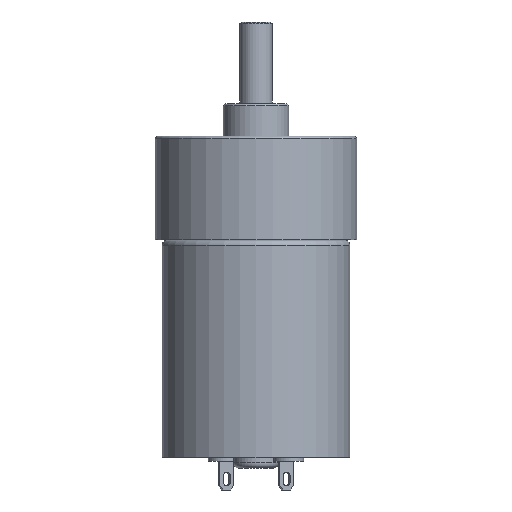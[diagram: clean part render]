
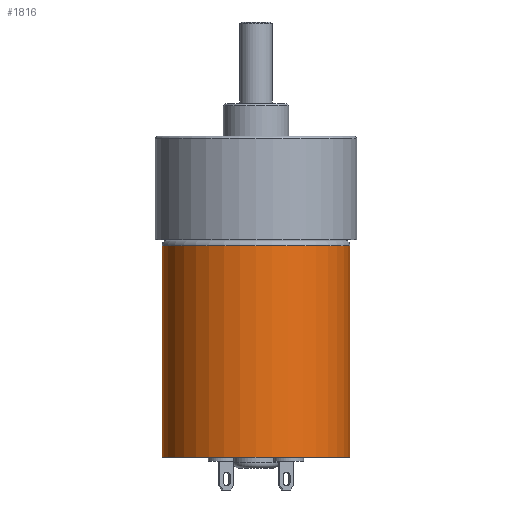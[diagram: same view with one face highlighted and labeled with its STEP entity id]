
A CAD part, front view. The second image highlights one B-rep face of the part: STEP entity #1816.
In plain terms, the highlighted cylindrical face has radius 17.25 mm (diameter 34.5 mm), a partial arc.
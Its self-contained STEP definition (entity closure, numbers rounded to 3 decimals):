
#1568 = EDGE_CURVE ( 'NONE', #1834, #3184, #3850, .T. ) ;
#1569 = ORIENTED_EDGE ( 'NONE', *, *, #1568, .T. ) ;
#1799 = EDGE_LOOP ( 'NONE', ( #1822, #3686, #1814, #1569 ) ) ;
#1811 = EDGE_CURVE ( 'NONE', #3206, #3205, #4703, .T. ) ;
#1814 = ORIENTED_EDGE ( 'NONE', *, *, #3194, .T. ) ;
#1816 = ADVANCED_FACE ( 'NONE', ( #4679 ), #4729, .T. ) ;
#1822 = ORIENTED_EDGE ( 'NONE', *, *, #3180, .F. ) ;
#1834 = VERTEX_POINT ( 'NONE', #4795 ) ;
#3180 = EDGE_CURVE ( 'NONE', #3205, #3184, #7584, .T. ) ;
#3184 = VERTEX_POINT ( 'NONE', #7578 ) ;
#3194 = EDGE_CURVE ( 'NONE', #3206, #1834, #7565, .T. ) ;
#3205 = VERTEX_POINT ( 'NONE', #7604 ) ;
#3206 = VERTEX_POINT ( 'NONE', #7602 ) ;
#3686 = ORIENTED_EDGE ( 'NONE', *, *, #1811, .F. ) ;
#3843 = DIRECTION ( 'NONE',  ( -1., 0., 0. ) ) ;
#3845 = DIRECTION ( 'NONE',  ( 0., 0., -1. ) ) ;
#3846 = CARTESIAN_POINT ( 'NONE',  ( 0., 0., -20.1 ) ) ;
#3848 = AXIS2_PLACEMENT_3D ( 'NONE', #3846, #3845, #3843 ) ;
#3850 = CIRCLE ( 'NONE', #3848, 17.25 ) ;
#4679 = FACE_OUTER_BOUND ( 'NONE', #1799, .T. ) ;
#4696 = CARTESIAN_POINT ( 'NONE',  ( 0., 0., -59. ) ) ;
#4697 = AXIS2_PLACEMENT_3D ( 'NONE', #4696, #4741, #4736 ) ;
#4703 = CIRCLE ( 'NONE', #4697, 17.25 ) ;
#4729 = CYLINDRICAL_SURFACE ( 'NONE', #4737, 17.25 ) ;
#4733 = DIRECTION ( 'NONE',  ( 1., 0., 0. ) ) ;
#4736 = DIRECTION ( 'NONE',  ( -1., 0., 0. ) ) ;
#4737 = AXIS2_PLACEMENT_3D ( 'NONE', #4742, #4769, #4733 ) ;
#4741 = DIRECTION ( 'NONE',  ( 0., 0., -1. ) ) ;
#4742 = CARTESIAN_POINT ( 'NONE',  ( 0., 0., -59. ) ) ;
#4769 = DIRECTION ( 'NONE',  ( 0., 0., 1. ) ) ;
#4795 = CARTESIAN_POINT ( 'NONE',  ( 17.25, 0., -20.1 ) ) ;
#7559 = DIRECTION ( 'NONE',  ( 0., 0., 1. ) ) ;
#7560 = VECTOR ( 'NONE', #7559, 1000. ) ;
#7564 = CARTESIAN_POINT ( 'NONE',  ( 17.25, 0., -59. ) ) ;
#7565 = LINE ( 'NONE', #7564, #7560 ) ;
#7578 = CARTESIAN_POINT ( 'NONE',  ( -17.25, 0., -20.1 ) ) ;
#7581 = DIRECTION ( 'NONE',  ( 0., 0., 1. ) ) ;
#7582 = VECTOR ( 'NONE', #7581, 1000. ) ;
#7583 = CARTESIAN_POINT ( 'NONE',  ( -17.25, 0., -59. ) ) ;
#7584 = LINE ( 'NONE', #7583, #7582 ) ;
#7602 = CARTESIAN_POINT ( 'NONE',  ( 17.25, 0., -59. ) ) ;
#7604 = CARTESIAN_POINT ( 'NONE',  ( -17.25, 0., -59. ) ) ;
